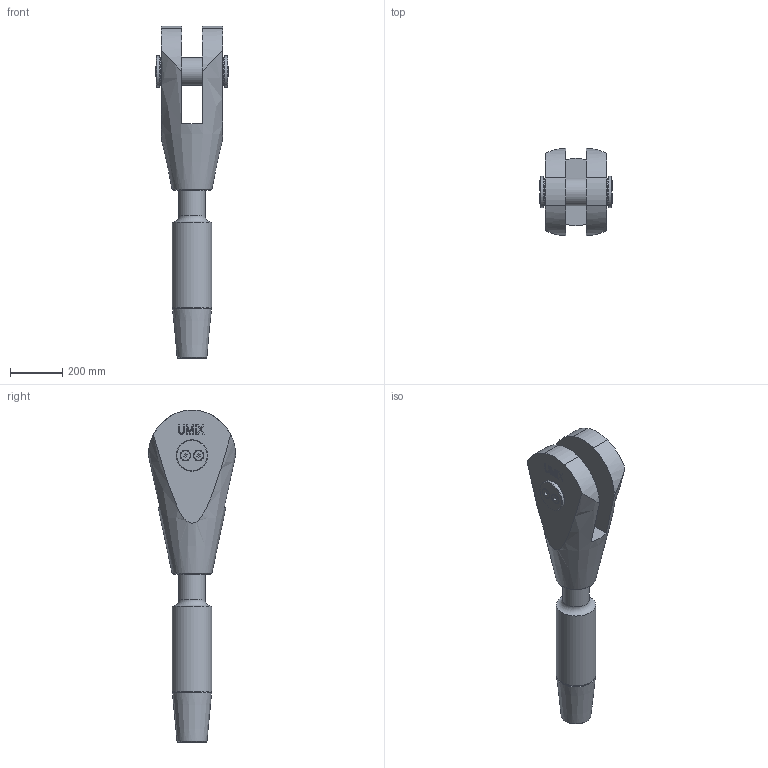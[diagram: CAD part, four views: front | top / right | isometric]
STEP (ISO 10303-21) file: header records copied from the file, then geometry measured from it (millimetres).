
FILE_DESCRIPTION(/* description */ (''),/* implementation_level */ '2;1');
FILE_NAME(/* name */ 'G:\Engineering\700 CAD\Internet-PX-1-step-igs-dxf\520-GAK-ADA-Arbeitsdateien\520-100-GAK-ADA.stp',/* time_stamp */ '2020-07-03T13:15:55+02:00',/* author */ ('schwarz'),/* organization */ (''),/* preprocessor_version */ 'ST-DEVELOPER v16.1',/* originating_system */ 'Autodesk Inventor 2016',/* authorisation */ '');
FILE_SCHEMA (('AUTOMOTIVE_DESIGN { 1 0 10303 214 3 1 1 }'));
Length unit declared in the file: centimetre
Products named in the file (1): 520-100-GAK-ADA-Kunde
Bounding box: 275 x 333.1 x 1266.6 mm (x, y, z)
Volume: 32072831.2 mm3; surface area: 1201087.7 mm2
Topology: 2 solids, 10 shells, 247 faces, 627 edges, 414 vertices
Faces by surface type: plane 165, cone 30, cylinder 30, bspline 21, torus 1
Full cylindrical faces by diameter (mm): 17.294 x4, 20 x4, 22 x4, 36.05 x4, 100 x1, 103 x1, 106 x1, 109 x2, 120 x2, 150 x1
Entity records: 7230 total; most frequent: CARTESIAN_POINT 1549, ORIENTED_EDGE 1082, DIRECTION 1000, EDGE_CURVE 541, LINE 384, VECTOR 384, VERTEX_POINT 383, EDGE_LOOP 328
